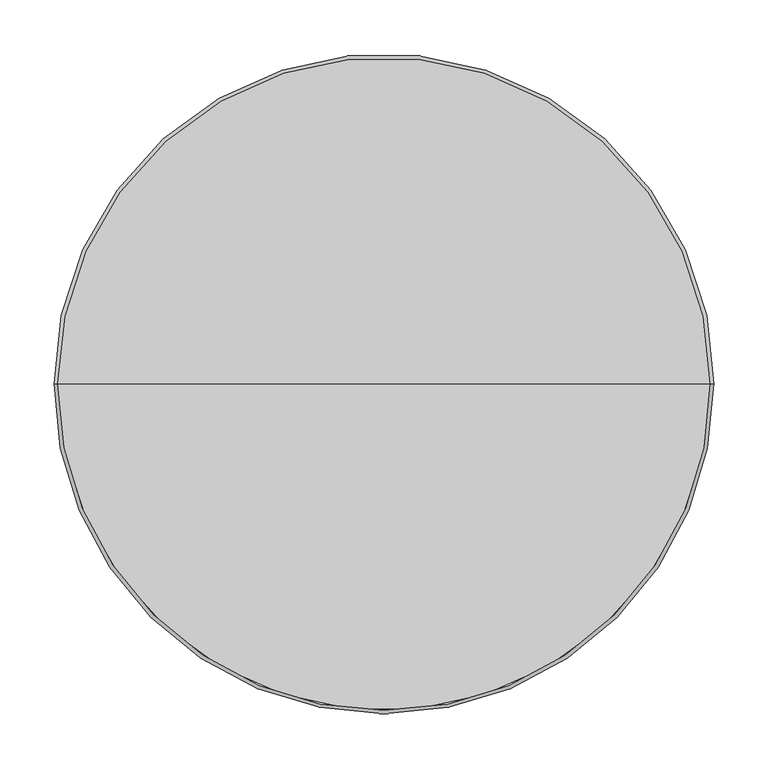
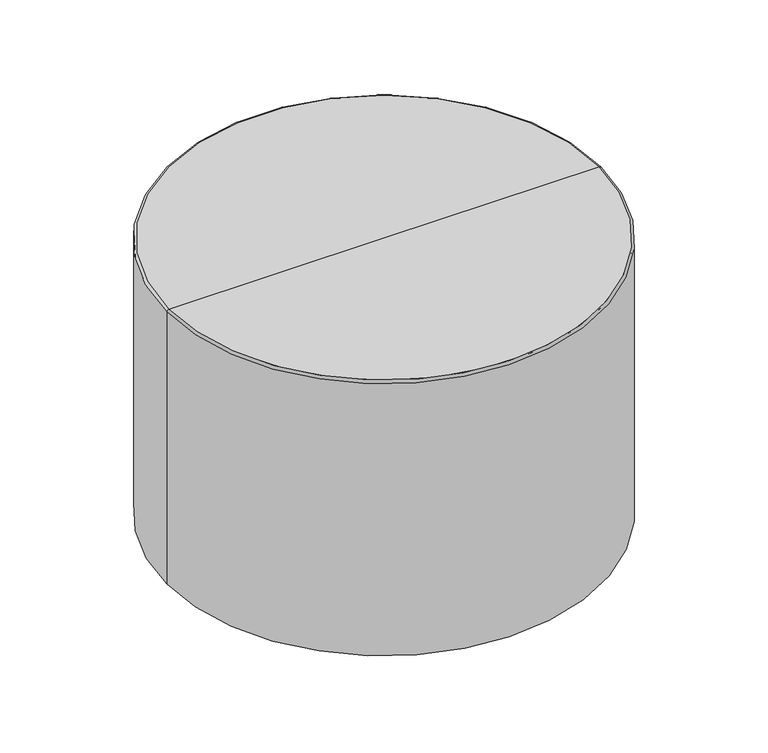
"""IFC4 building model written with IfcOpenShell, lengths in millimetres: furniture geometry, StanceHC-Drum_Table_Upholstered : DRT-24D-16-H."""

from ifc_helpers import new_model, si_unit, point, frame, frame_2d, origin, origin_with_axes, place, context, project, spatial, circle_curve, ellipse_curve, trimmed, segment, composite_curve, outline, extrude, source, transform, mapped, element, save
from ifc_brep_helpers import plane_surface, cylinder_surface, revolved_surface, advanced_brep


def furniture_476e85af(model_context):
    return source(origin(), model_context, "Body", "SolidModel", [
        extrude(outline(composite_curve([segment(trimmed(circle_curve(frame_2d((0.0, 243.7664845)), 12.7), [point((-12.7, 243.7664845))], [point((12.7, 243.7664845))], False, "CARTESIAN"), True, "CONTINUOUS"), segment(trimmed(circle_curve(frame_2d((0.0, 243.7664845)), 12.7), [point((12.7, 243.7664845))], [point((-12.7, 243.7664845))], False, "CARTESIAN"), True, "CONTINUOUS")], self_intersect=False)), origin_with_axes(), (0.0, 0.0, 1.0), 4.7625),
        extrude(outline(composite_curve([segment(trimmed(circle_curve(frame_2d((0.0, -243.7664845)), 12.7), [point((-12.7, -243.7664845))], [point((12.7, -243.7664845))], False, "CARTESIAN"), True, "CONTINUOUS"), segment(trimmed(circle_curve(frame_2d((0.0, -243.7664845)), 12.7), [point((12.7, -243.7664845))], [point((-12.7, -243.7664845))], False, "CARTESIAN"), True, "CONTINUOUS")], self_intersect=False)), origin_with_axes(), (0.0, 0.0, 1.0), 4.7625),
        extrude(outline(composite_curve([segment(trimmed(circle_curve(frame_2d((247.6496404, 0.0)), 12.7), [point((234.9496404, 0.0))], [point((260.3496404, 0.0))], False, "CARTESIAN"), True, "CONTINUOUS"), segment(trimmed(circle_curve(frame_2d((247.6496404, 0.0)), 12.7), [point((260.3496404, 0.0))], [point((234.9496404, 0.0))], False, "CARTESIAN"), True, "CONTINUOUS")], self_intersect=False)), origin_with_axes(), (0.0, 0.0, 1.0), 4.7625),
        extrude(outline(composite_curve([segment(trimmed(circle_curve(frame_2d((-247.6496404, 0.0)), 12.7), [point((-260.3496404, 0.0))], [point((-234.9496404, 0.0))], False, "CARTESIAN"), True, "CONTINUOUS"), segment(trimmed(circle_curve(frame_2d((-247.6496404, 0.0)), 12.7), [point((-234.9496404, 0.0))], [point((-260.3496404, 0.0))], False, "CARTESIAN"), True, "CONTINUOUS")], self_intersect=False)), origin_with_axes(), (0.0, 0.0, 1.0), 4.7625),
        advanced_brep(
        [(-304.8, 0.0, 4.7625), (304.8, 0.0, 4.7625), (0.0, 0.0, 4.7625), (-304.8, 0.0, 408.0389933), (304.8, 0.0, 408.0389933), (-301.6764933, 0.0, 411.1625), (301.6764933, 0.0, 411.1625), (0.0, 0.0, 411.1625)],
        [
            (0, 1, circle_curve(frame((0.0, 0.0, 4.7625), z_axis=(0.0, 0.0, -1.0), x_axis=(1.0, 0.0, 0.0)), 304.8)),
            (1, 2),
            (2, 0),
            (1, 0, circle_curve(frame((0.0, 0.0, 4.7625), z_axis=(0.0, 0.0, -1.0), x_axis=(1.0, 0.0, 0.0)), 304.8)),
            (3, 4, circle_curve(frame((0.0, 0.0, 408.0389933), z_axis=(0.0, 0.0, -1.0), x_axis=(1.0, 0.0, 0.0)), 304.8)),
            (4, 1),
            (0, 3),
            (4, 3, circle_curve(frame((0.0, 0.0, 408.0389933), z_axis=(0.0, 0.0, -1.0), x_axis=(1.0, 0.0, 0.0)), 304.8)),
            (5, 6, circle_curve(frame((0.0, 0.0, 411.1625), z_axis=(0.0, 0.0, -1.0), x_axis=(1.0, 0.0, 0.0)), 301.6764933)),
            (6, 4, circle_curve(frame((301.6764933, 0.0, 408.0389933), z_axis=(0.0, 1.0, 0.0), x_axis=(1.0, 0.0, 0.0)), 3.1235067)),
            (3, 5, circle_curve(frame((-301.6764933, 0.0, 408.0389933), z_axis=(0.0, 1.0, 0.0), x_axis=(-1.0, 0.0, 0.0)), 3.1235067)),
            (6, 5, circle_curve(frame((0.0, 0.0, 411.1625), z_axis=(0.0, 0.0, -1.0), x_axis=(1.0, 0.0, 0.0)), 301.6764933)),
            (7, 6),
            (5, 7),
        ],
        [
            plane_surface(frame((0.0, 0.0, 4.7625), z_axis=(0.0, 0.0, -1.0), x_axis=(1.0, 0.0, 0.0))),
            cylinder_surface(frame((0.0, 0.0, 506.4125), z_axis=(0.0, 0.0, 1.0), x_axis=(1.0, 0.0, 0.0)), 304.8),
            revolved_surface(trimmed(ellipse_curve(frame((301.6764933, 0.0, 408.0389933), z_axis=(0.0, -1.0, 0.0), x_axis=(1.0, 0.0, 0.0)), 3.1235067, 3.1235067), [point((304.8, 0.0, 408.0389933))], [point((301.6764933, 0.0, 411.1625))], True, "CARTESIAN"), (0.0, 0.0, 506.4125), (0.0, 0.0, 1.0)),
            plane_surface(frame((0.0, 0.0, 411.1625), z_axis=(0.0, 0.0, 1.0), x_axis=(1.0, 0.0, 0.0))),
        ],
        [
            (0, [[1, 2, 3]]),
            (0, [[4, -3, -2]]),
            (1, [[5, 6, -1, 7]]),
            (1, [[8, -7, -4, -6]]),
            (2, [[9, 10, -5, 11]]),
            (2, [[12, -11, -8, -10]]),
            (3, [[13, -9, 14]]),
            (3, [[-14, -12, -13]]),
        ],
    ),
    ])


if __name__ == "__main__":
    model = new_model("IFC4")
    model_context = context("Model", 3, world=origin())
    ifc_project = project(units=[si_unit("LENGTHUNIT", "METRE", prefix="MILLI")], contexts=[model_context])
    site = spatial("IfcSite", under=ifc_project)
    building = spatial("IfcBuilding", under=site)
    placement = place(None, origin())
    furniture_shape = furniture_476e85af(model_context)
    element("IfcFurniture", 1, ObjectType="StanceHC-Drum_Table_Upholstered : DRT-24D-16-H", at=placement, inside=building, context=model_context, shape_type="MappedRepresentation", body=[
        mapped(furniture_shape, transform((0.0, 0.0, 0.0), x_axis=(1.0, 0.0, 0.0), y_axis=(0.0, 1.0, 0.0), z_axis=(0.0, 0.0, 1.0))),
    ])
    save(model, "model.ifc")
